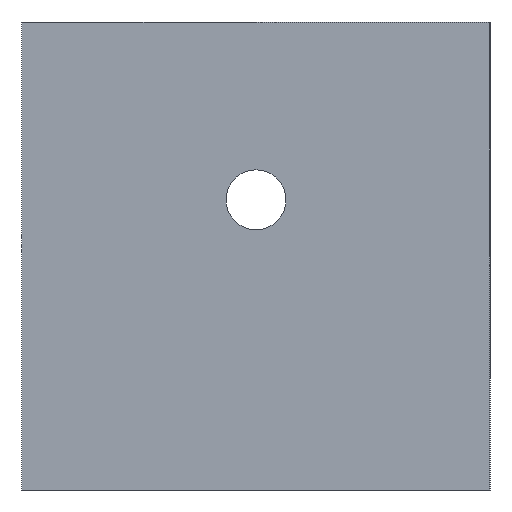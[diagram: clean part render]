
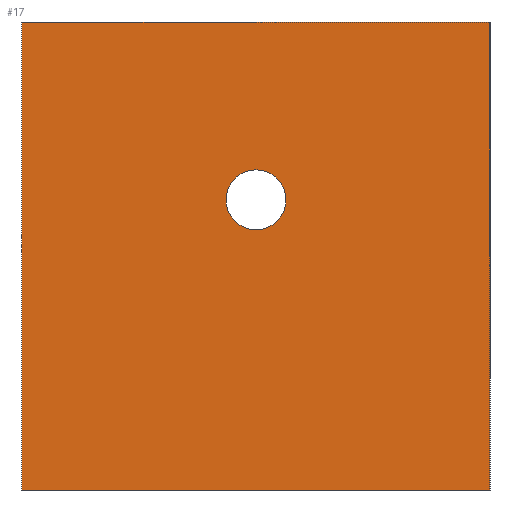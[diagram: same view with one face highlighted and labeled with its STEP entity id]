
A CAD part, left-side view. The second image highlights one B-rep face of the part: STEP entity #17.
In plain terms, the highlighted planar face has unit normal (-1, 0, 0).
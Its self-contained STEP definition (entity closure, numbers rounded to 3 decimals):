
#17 = ADVANCED_FACE('',(#18,#137),#32,.F.);
#18 = FACE_BOUND('',#19,.F.);
#19 = EDGE_LOOP('',(#20,#55,#83,#111));
#20 = ORIENTED_EDGE('',*,*,#21,.F.);
#21 = EDGE_CURVE('',#22,#24,#26,.T.);
#22 = VERTEX_POINT('',#23);
#23 = CARTESIAN_POINT('',(0.,-12.5,0.));
#24 = VERTEX_POINT('',#25);
#25 = CARTESIAN_POINT('',(0.,-12.5,25.));
#26 = SURFACE_CURVE('',#27,(#31,#43),.PCURVE_S1.);
#27 = LINE('',#28,#29);
#28 = CARTESIAN_POINT('',(0.,-12.5,0.));
#29 = VECTOR('',#30,1.);
#30 = DIRECTION('',(0.,0.,1.));
#31 = PCURVE('',#32,#37);
#32 = PLANE('',#33);
#33 = AXIS2_PLACEMENT_3D('',#34,#35,#36);
#34 = CARTESIAN_POINT('',(0.,-12.5,0.));
#35 = DIRECTION('',(1.,0.,0.));
#36 = DIRECTION('',(0.,0.,1.));
#37 = DEFINITIONAL_REPRESENTATION('',(#38),#42);
#38 = LINE('',#39,#40);
#39 = CARTESIAN_POINT('',(0.,0.));
#40 = VECTOR('',#41,1.);
#41 = DIRECTION('',(1.,0.));
#42 = ( GEOMETRIC_REPRESENTATION_CONTEXT(2) 
PARAMETRIC_REPRESENTATION_CONTEXT() REPRESENTATION_CONTEXT('2D SPACE',''
  ) );
#43 = PCURVE('',#44,#49);
#44 = PLANE('',#45);
#45 = AXIS2_PLACEMENT_3D('',#46,#47,#48);
#46 = CARTESIAN_POINT('',(0.,-12.5,0.));
#47 = DIRECTION('',(0.,1.,0.));
#48 = DIRECTION('',(0.,0.,1.));
#49 = DEFINITIONAL_REPRESENTATION('',(#50),#54);
#50 = LINE('',#51,#52);
#51 = CARTESIAN_POINT('',(0.,0.));
#52 = VECTOR('',#53,1.);
#53 = DIRECTION('',(1.,0.));
#54 = ( GEOMETRIC_REPRESENTATION_CONTEXT(2) 
PARAMETRIC_REPRESENTATION_CONTEXT() REPRESENTATION_CONTEXT('2D SPACE',''
  ) );
#55 = ORIENTED_EDGE('',*,*,#56,.T.);
#56 = EDGE_CURVE('',#22,#57,#59,.T.);
#57 = VERTEX_POINT('',#58);
#58 = CARTESIAN_POINT('',(0.,12.5,0.));
#59 = SURFACE_CURVE('',#60,(#64,#71),.PCURVE_S1.);
#60 = LINE('',#61,#62);
#61 = CARTESIAN_POINT('',(0.,-12.5,0.));
#62 = VECTOR('',#63,1.);
#63 = DIRECTION('',(0.,1.,0.));
#64 = PCURVE('',#32,#65);
#65 = DEFINITIONAL_REPRESENTATION('',(#66),#70);
#66 = LINE('',#67,#68);
#67 = CARTESIAN_POINT('',(0.,0.));
#68 = VECTOR('',#69,1.);
#69 = DIRECTION('',(0.,-1.));
#70 = ( GEOMETRIC_REPRESENTATION_CONTEXT(2) 
PARAMETRIC_REPRESENTATION_CONTEXT() REPRESENTATION_CONTEXT('2D SPACE',''
  ) );
#71 = PCURVE('',#72,#77);
#72 = PLANE('',#73);
#73 = AXIS2_PLACEMENT_3D('',#74,#75,#76);
#74 = CARTESIAN_POINT('',(0.,-12.5,0.));
#75 = DIRECTION('',(0.,0.,1.));
#76 = DIRECTION('',(1.,0.,0.));
#77 = DEFINITIONAL_REPRESENTATION('',(#78),#82);
#78 = LINE('',#79,#80);
#79 = CARTESIAN_POINT('',(0.,0.));
#80 = VECTOR('',#81,1.);
#81 = DIRECTION('',(0.,1.));
#82 = ( GEOMETRIC_REPRESENTATION_CONTEXT(2) 
PARAMETRIC_REPRESENTATION_CONTEXT() REPRESENTATION_CONTEXT('2D SPACE',''
  ) );
#83 = ORIENTED_EDGE('',*,*,#84,.F.);
#84 = EDGE_CURVE('',#85,#57,#87,.T.);
#85 = VERTEX_POINT('',#86);
#86 = CARTESIAN_POINT('',(0.,12.5,25.));
#87 = SURFACE_CURVE('',#88,(#92,#99),.PCURVE_S1.);
#88 = LINE('',#89,#90);
#89 = CARTESIAN_POINT('',(0.,12.5,25.));
#90 = VECTOR('',#91,1.);
#91 = DIRECTION('',(0.,0.,-1.));
#92 = PCURVE('',#32,#93);
#93 = DEFINITIONAL_REPRESENTATION('',(#94),#98);
#94 = LINE('',#95,#96);
#95 = CARTESIAN_POINT('',(25.,-25.));
#96 = VECTOR('',#97,1.);
#97 = DIRECTION('',(-1.,0.));
#98 = ( GEOMETRIC_REPRESENTATION_CONTEXT(2) 
PARAMETRIC_REPRESENTATION_CONTEXT() REPRESENTATION_CONTEXT('2D SPACE',''
  ) );
#99 = PCURVE('',#100,#105);
#100 = PLANE('',#101);
#101 = AXIS2_PLACEMENT_3D('',#102,#103,#104);
#102 = CARTESIAN_POINT('',(0.,12.5,0.));
#103 = DIRECTION('',(0.,1.,0.));
#104 = DIRECTION('',(0.,0.,1.));
#105 = DEFINITIONAL_REPRESENTATION('',(#106),#110);
#106 = LINE('',#107,#108);
#107 = CARTESIAN_POINT('',(25.,0.));
#108 = VECTOR('',#109,1.);
#109 = DIRECTION('',(-1.,0.));
#110 = ( GEOMETRIC_REPRESENTATION_CONTEXT(2) 
PARAMETRIC_REPRESENTATION_CONTEXT() REPRESENTATION_CONTEXT('2D SPACE',''
  ) );
#111 = ORIENTED_EDGE('',*,*,#112,.F.);
#112 = EDGE_CURVE('',#24,#85,#113,.T.);
#113 = SURFACE_CURVE('',#114,(#118,#125),.PCURVE_S1.);
#114 = LINE('',#115,#116);
#115 = CARTESIAN_POINT('',(0.,-12.5,25.));
#116 = VECTOR('',#117,1.);
#117 = DIRECTION('',(0.,1.,0.));
#118 = PCURVE('',#32,#119);
#119 = DEFINITIONAL_REPRESENTATION('',(#120),#124);
#120 = LINE('',#121,#122);
#121 = CARTESIAN_POINT('',(25.,0.));
#122 = VECTOR('',#123,1.);
#123 = DIRECTION('',(0.,-1.));
#124 = ( GEOMETRIC_REPRESENTATION_CONTEXT(2) 
PARAMETRIC_REPRESENTATION_CONTEXT() REPRESENTATION_CONTEXT('2D SPACE',''
  ) );
#125 = PCURVE('',#126,#131);
#126 = PLANE('',#127);
#127 = AXIS2_PLACEMENT_3D('',#128,#129,#130);
#128 = CARTESIAN_POINT('',(0.,-12.5,25.));
#129 = DIRECTION('',(0.,0.,1.));
#130 = DIRECTION('',(1.,0.,0.));
#131 = DEFINITIONAL_REPRESENTATION('',(#132),#136);
#132 = LINE('',#133,#134);
#133 = CARTESIAN_POINT('',(0.,0.));
#134 = VECTOR('',#135,1.);
#135 = DIRECTION('',(0.,1.));
#136 = ( GEOMETRIC_REPRESENTATION_CONTEXT(2) 
PARAMETRIC_REPRESENTATION_CONTEXT() REPRESENTATION_CONTEXT('2D SPACE',''
  ) );
#137 = FACE_BOUND('',#138,.F.);
#138 = EDGE_LOOP('',(#139));
#139 = ORIENTED_EDGE('',*,*,#140,.F.);
#140 = EDGE_CURVE('',#141,#141,#143,.T.);
#141 = VERTEX_POINT('',#142);
#142 = CARTESIAN_POINT('',(-0.,1.6,15.5));
#143 = SURFACE_CURVE('',#144,(#149,#156),.PCURVE_S1.);
#144 = CIRCLE('',#145,1.6);
#145 = AXIS2_PLACEMENT_3D('',#146,#147,#148);
#146 = CARTESIAN_POINT('',(0.,0.,15.5));
#147 = DIRECTION('',(1.,0.,0.));
#148 = DIRECTION('',(0.,1.,0.));
#149 = PCURVE('',#32,#150);
#150 = DEFINITIONAL_REPRESENTATION('',(#151),#155);
#151 = CIRCLE('',#152,1.6);
#152 = AXIS2_PLACEMENT_2D('',#153,#154);
#153 = CARTESIAN_POINT('',(15.5,-12.5));
#154 = DIRECTION('',(0.,-1.));
#155 = ( GEOMETRIC_REPRESENTATION_CONTEXT(2) 
PARAMETRIC_REPRESENTATION_CONTEXT() REPRESENTATION_CONTEXT('2D SPACE',''
  ) );
#156 = PCURVE('',#157,#162);
#157 = CYLINDRICAL_SURFACE('',#158,1.6);
#158 = AXIS2_PLACEMENT_3D('',#159,#160,#161);
#159 = CARTESIAN_POINT('',(0.,0.,15.5));
#160 = DIRECTION('',(1.,0.,0.));
#161 = DIRECTION('',(0.,1.,0.));
#162 = DEFINITIONAL_REPRESENTATION('',(#163),#167);
#163 = LINE('',#164,#165);
#164 = CARTESIAN_POINT('',(0.,0.));
#165 = VECTOR('',#166,1.);
#166 = DIRECTION('',(1.,0.));
#167 = ( GEOMETRIC_REPRESENTATION_CONTEXT(2) 
PARAMETRIC_REPRESENTATION_CONTEXT() REPRESENTATION_CONTEXT('2D SPACE',''
  ) );
